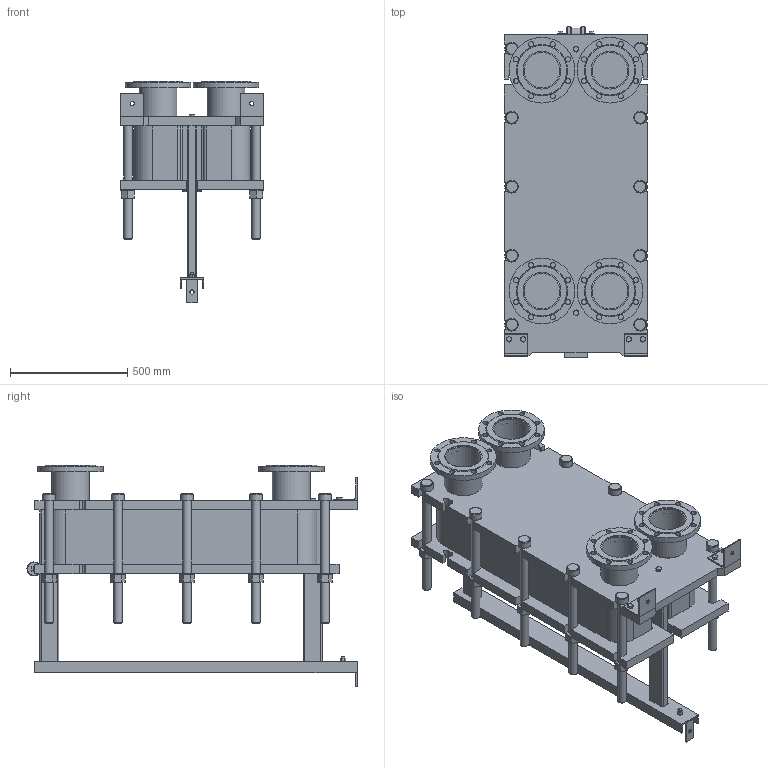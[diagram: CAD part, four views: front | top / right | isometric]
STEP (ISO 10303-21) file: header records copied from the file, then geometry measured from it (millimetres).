
FILE_DESCRIPTION(/* description */ (''),/* implementation_level */ '2;1');
FILE_NAME(/* name */ 'C:\Users\zhuro\Desktop\ENCO\TO\ЭН-041\ЭН-0,5-041-67-1.stp',/* time_stamp */ '2022-06-06T10:54:51+03:00',/* author */ ('zhuro'),/* organization */ (''),/* preprocessor_version */ 'ST-DEVELOPER v18.1',/* originating_system */ 'Autodesk Inventor 2022',/* authorisation */ '');
FILE_SCHEMA (('AUTOMOTIVE_DESIGN { 1 0 10303 214 3 1 1 }'));
Length unit declared in the file: millimetre
Products named in the file (1): ЭН-0,5-041-67-1
Bounding box: 610 x 1406.5 x 942.5 mm (x, y, z)
Volume: 208161534.5 mm3; surface area: 8296888.2 mm2
Topology: 52 solids, 52 shells, 711 faces, 1696 edges, 1094 vertices
Faces by surface type: plane 487, cylinder 177, cone 41, torus 6
Full cylindrical faces by diameter (mm): 8 x4, 10 x2, 16 x8, 18 x3, 22 x32, 36 x24, 50 x1, 54 x10, 60 x12, 151 x4, 161 x8, 280 x4
Entity records: 22667 total; most frequent: CARTESIAN_POINT 5230, DIRECTION 3644, ORIENTED_EDGE 3392, EDGE_CURVE 1696, AXIS2_PLACEMENT_3D 1272, LINE 1100, VECTOR 1100, VERTEX_POINT 1094
